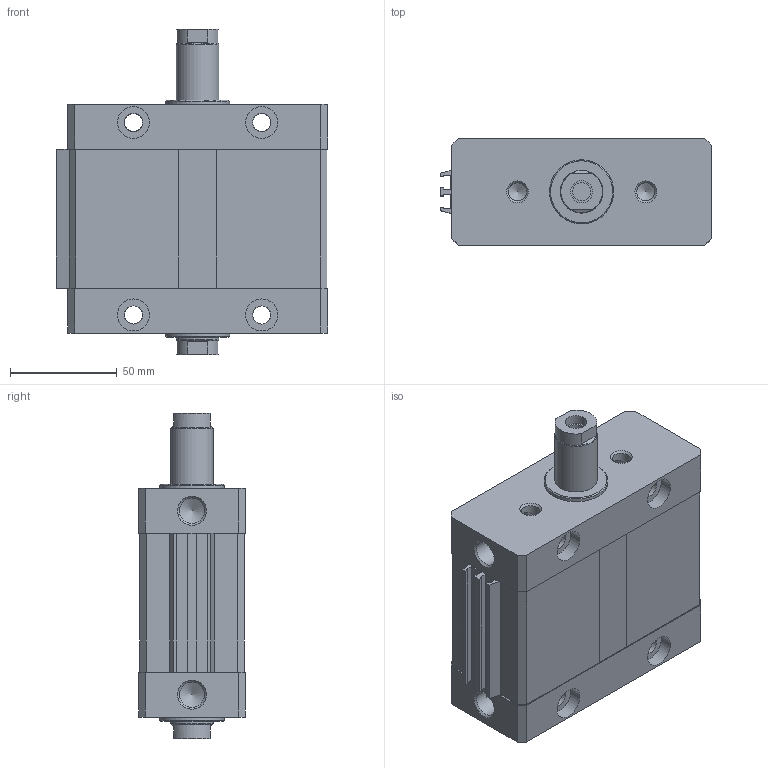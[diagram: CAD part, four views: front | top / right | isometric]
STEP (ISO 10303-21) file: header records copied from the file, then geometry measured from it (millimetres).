
FILE_DESCRIPTION((''),'2;1');
FILE_NAME('I:\Area Tecnica\Disegni\VARIE-3D\Componenti\1370 - CPO\1370_##_0000_03\1370_63_0025_03-01.iam.step','2010-12-16T11:00:45',(''),(''),'Autodesk Inventor 2011','Autodesk Inventor 2011','');
FILE_SCHEMA(('AUTOMOTIVE_DESIGN { 1 0 10303 214 1 1 1 1 }'));
Length unit declared in the file: millimetre
Products named in the file (5): 1370_63_0025_03-01; 1370_05_63_0000; 1370_06_63_0025; 1370_08_63_0000; 1370_3_63_0025
Assembly tree (4 placements, depth 2):
  1370_63_0025_03-01
    1370_05_63_0000
    1370_06_63_0025
    1370_08_63_0000
    1370_3_63_0025
Bounding box: 126.75 x 50 x 152 mm (x, y, z)
Volume: 555989.9 mm3; surface area: 121765.6 mm2
Topology: 4 solids, 4 shells, 164 faces, 398 edges, 252 vertices
Faces by surface type: plane 94, cylinder 50, cone 20
Full cylindrical faces by diameter (mm): 8.5 x20, 10.3 x2, 11.75 x2, 15 x8, 20 x4, 30 x2
Entity records: 4722 total; most frequent: DIRECTION 794, CARTESIAN_POINT 737, ORIENTED_EDGE 652, EDGE_CURVE 326, AXIS2_PLACEMENT_3D 295, EDGE_LOOP 254, VERTEX_POINT 238, VECTOR 204
